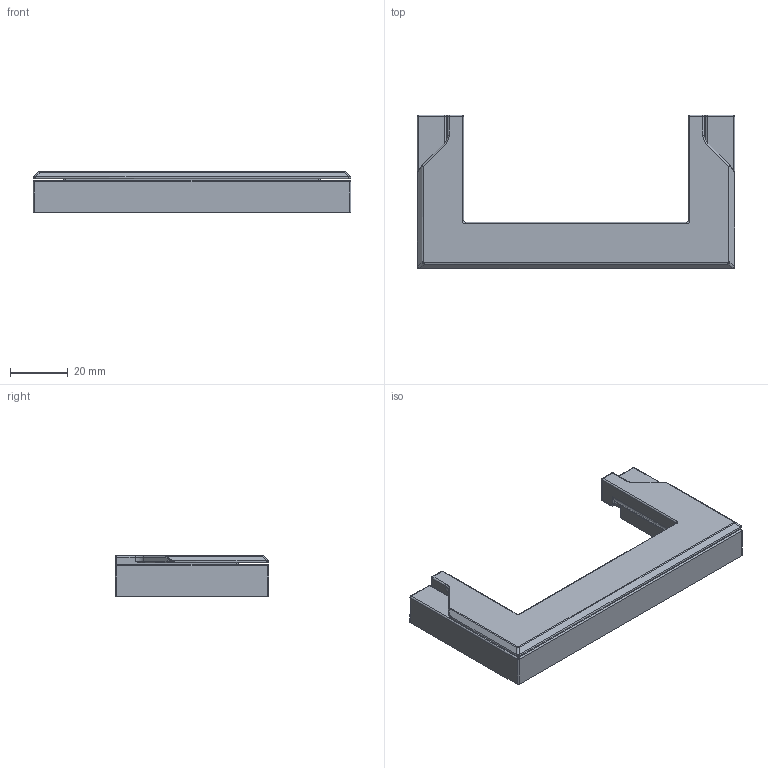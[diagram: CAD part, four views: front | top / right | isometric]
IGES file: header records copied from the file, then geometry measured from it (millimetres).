
Start section: C
Global section: file name: 8197-110.igs; native system: By Siemens PLM Incorporated; preprocessor: XPlus GENERIC/IGES 16.0.42; author: Author; organization: Title; date: 20231116.113405; units: millimetre
Bounding box: 109.5 x 53 x 14 mm (x, y, z)
Surface area: 21070.7 mm2 (no closed solid volume)
Topology: 0 solids, 0 shells, 378 faces, 2142 edges, 2112 vertices
Faces by surface type: bspline 378
